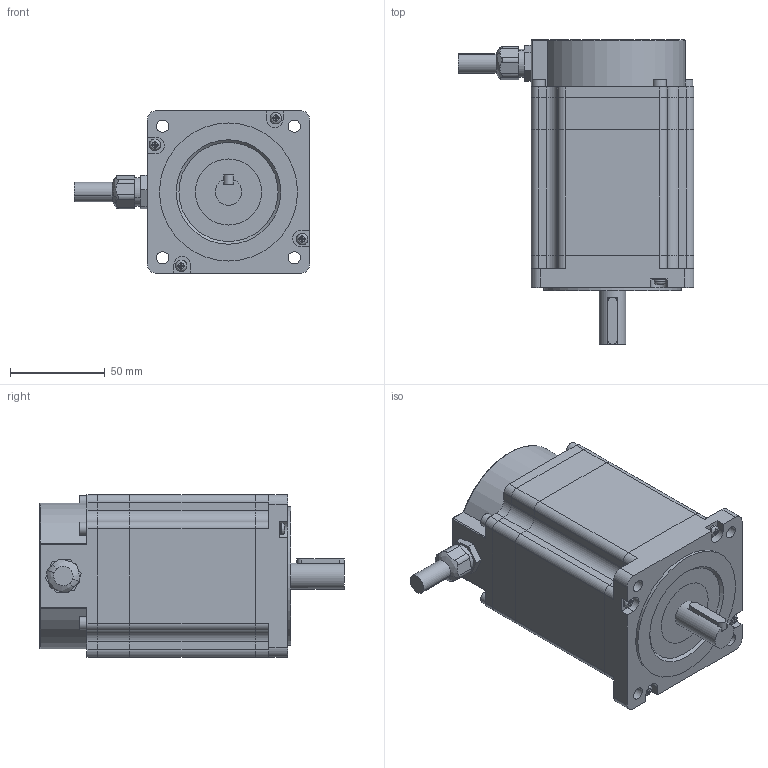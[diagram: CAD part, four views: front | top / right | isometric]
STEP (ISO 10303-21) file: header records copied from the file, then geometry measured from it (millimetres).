
FILE_DESCRIPTION(/* description */ (''),/* implementation_level */ '2;1');
FILE_NAME(/* name */ '86HS100-6004-02J.stp',/* time_stamp */ '2020-10-08T09:10:22+08:00',/* author */ (''),/* organization */ (''),/* preprocessor_version */ 'ST-DEVELOPER v15',/* originating_system */ 'SIEMENS PLM Software NX 10.0',/* authorisation */ '');
FILE_SCHEMA (('AUTOMOTIVE_DESIGN { 1 0 10303 214 3 1 1 1 }'));
Length unit declared in the file: millimetre
Products named in the file (9): 油封φ35x内径15; 001f油封; 内六角螺钉; 螺钉; 格兰头_MODEL; 86老后罩; 40-14-25J 键槽; 086.001B; 86HS100-6004-02J
Assembly tree (15 placements, depth 2):
  86HS100-6004-02J
    086.001B
    40-14-25J 键槽  x2
    86老后罩
    格兰头_MODEL
    螺钉  x4
    内六角螺钉  x4
    001f油封
    油封φ35x内径15
Bounding box: 124.6 x 161.1 x 86 mm (x, y, z)
Volume: 689851.4 mm3; surface area: 122183.7 mm2
Topology: 18 solids, 18 shells, 367 faces, 954 edges, 638 vertices
Faces by surface type: plane 240, cylinder 115, bspline 8, sphere 2, torus 1, cone 1
Full cylindrical faces by diameter (mm): 4 x4, 4.5 x4, 4.7 x4, 6 x4, 6.5 x4, 7 x4, 10 x1, 14 x3, 15 x2, 17 x2, 35 x2, 52 x1, 72 x1, 73 x1
Entity records: 8802 total; most frequent: CARTESIAN_POINT 1975, DIRECTION 1361, ORIENTED_EDGE 1310, EDGE_CURVE 655, AXIS2_PLACEMENT_3D 482, VERTEX_POINT 457, LINE 397, VECTOR 397
